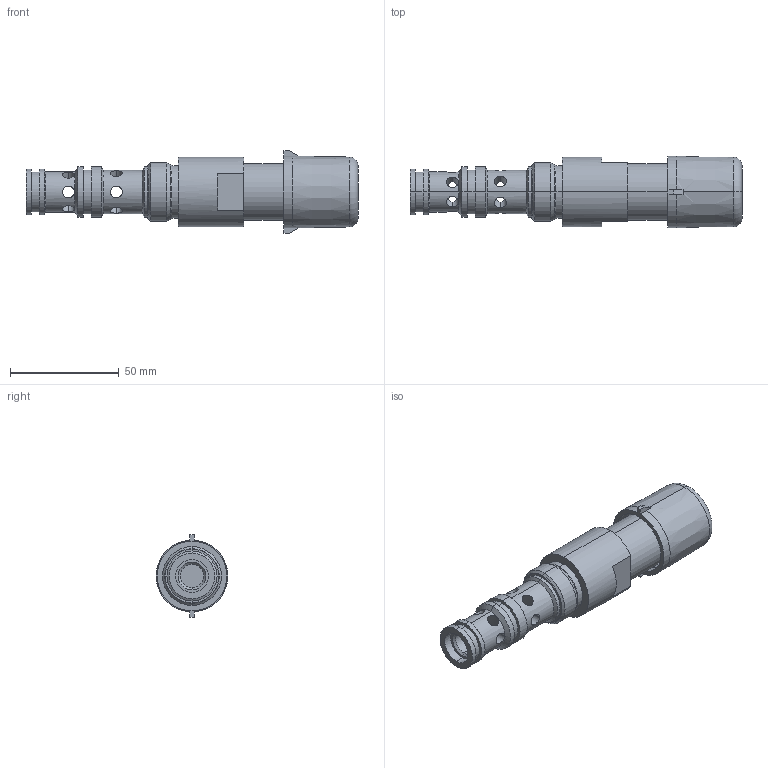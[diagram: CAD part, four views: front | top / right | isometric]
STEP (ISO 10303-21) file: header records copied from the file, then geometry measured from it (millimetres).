
FILE_DESCRIPTION((''),'2;1');
FILE_NAME('VRN2_10_S_S','2015-08-20T',('j.koudelka'),(''),'PRO/ENGINEER BY PARAMETRIC TECHNOLOGY CORPORATION, 2014090','PRO/ENGINEER BY PARAMETRIC TECHNOLOGY CORPORATION, 2014090','');
FILE_SCHEMA(('AUTOMOTIVE_DESIGN { 1 0 10303 214 1 1 1 1 }'));
Length unit declared in the file: millimetre
Products named in the file (1): VRN2_10_S_S
Bounding box: 152.5 x 33 x 38 mm (x, y, z)
Volume: 63667 mm3; surface area: 21804.5 mm2
Topology: 2 solids, 3 shells, 114 faces, 289 edges, 190 vertices
Faces by surface type: cylinder 62, plane 30, cone 18, torus 4
Entity records: 5210 total; most frequent: CARTESIAN_POINT 2184, DIRECTION 573, ORIENTED_EDGE 532, EDGE_CURVE 270, AXIS2_PLACEMENT_3D 220, VERTEX_POINT 162, EDGE_LOOP 138, VECTOR 133
